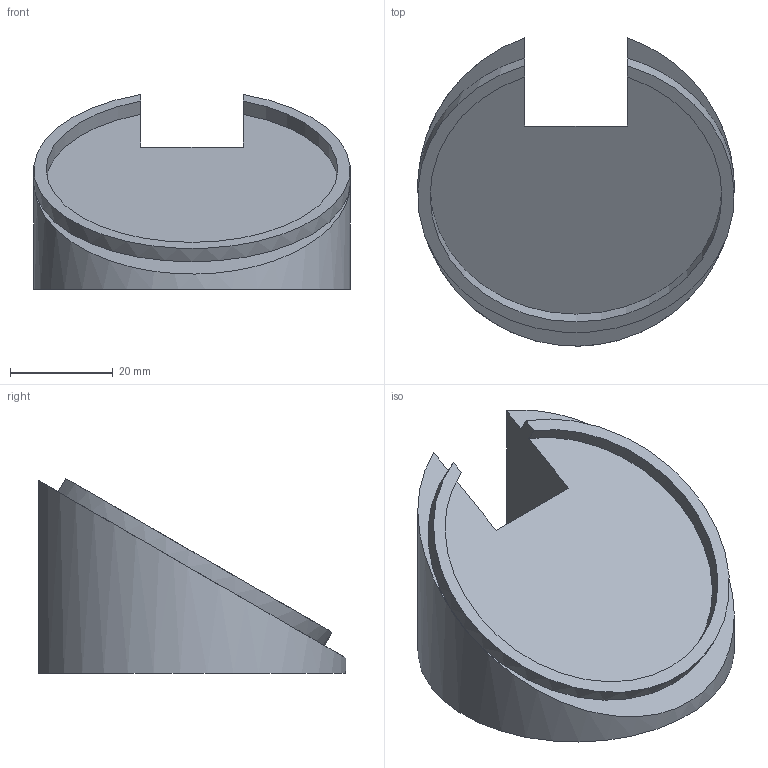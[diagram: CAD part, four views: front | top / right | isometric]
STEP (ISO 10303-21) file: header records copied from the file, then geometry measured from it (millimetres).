
FILE_DESCRIPTION(('Open CASCADE Model'),'2;1');
FILE_NAME('Open CASCADE Shape Model','2026-11-04T16:01:59',('Author'),( 'Open CASCADE'),'Open CASCADE STEP processor 7.9','Open CASCADE 7.9' ,'Unknown');
FILE_SCHEMA(('AUTOMOTIVE_DESIGN { 1 0 10303 214 1 1 1 1 }'));
Length unit declared in the file: millimetre
Products named in the file (1): Open CASCADE STEP translator 7.9 3
Bounding box: 61.6 x 59.93 x 37.95 mm (x, y, z)
Volume: 51090 mm3; surface area: 11559.8 mm2
Topology: 1 solids, 1 shells, 12 faces, 28 edges, 18 vertices
Faces by surface type: plane 9, cylinder 3
Entity records: 724 total; most frequent: CARTESIAN_POINT 195, DIRECTION 82, ORIENTED_EDGE 56, PCURVE 56, DEFINITIONAL_REPRESENTATION 56, B_SPLINE_CURVE_WITH_KNOTS 38, EDGE_CURVE 28, SURFACE_CURVE 28
